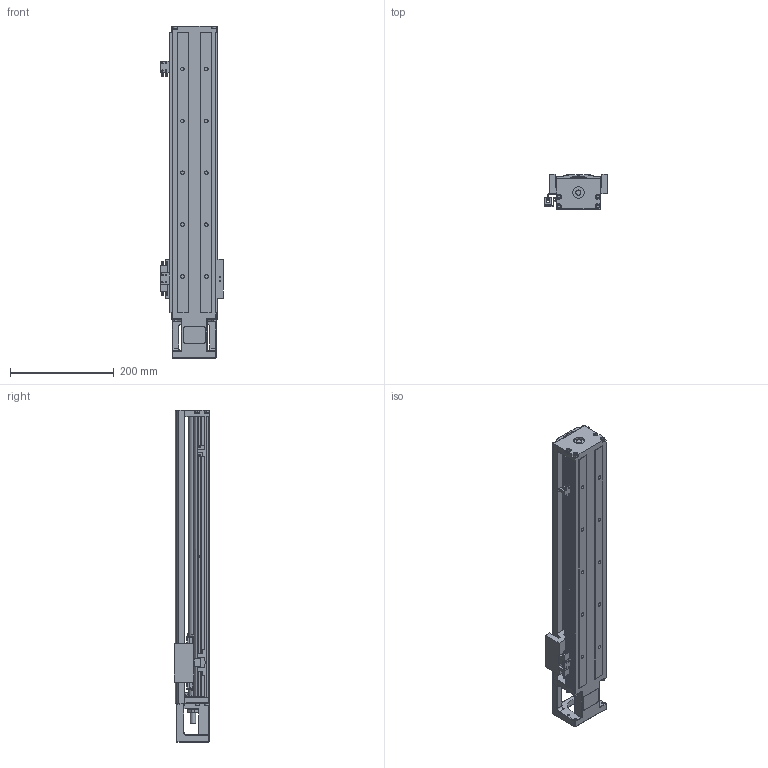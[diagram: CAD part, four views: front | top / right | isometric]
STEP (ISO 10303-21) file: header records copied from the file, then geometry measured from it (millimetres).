
FILE_DESCRIPTION (( 'STEP AP214' ), '1' );
FILE_NAME ('SFKK8610C-540A1-F0CS2.STEP', '2022-04-05T06:39:58', ( '微软用户' ), ( '微软中国' ), 'SwSTEP 2.0', 'SolidWorks 2018', '' );
FILE_SCHEMA (( 'AUTOMOTIVE_DESIGN' ));
Length unit declared in the file: millimetre
Products named in the file (11): 开关固定座：KK-674S2-F; 极限轨道与开关固定座组合_540; SFKK86-LR 憤癹寢耋_540; hexagon socket countersunk head screws gb_GB_FASTENER_SCREWS_HSCHS M3X8-N; SFKK86-A1-C; SFKK8610C-540A1-F0CS2; SFKK86-CU_540; 带盖挡光片：KK-86-S2-D1; SFKK86-F0_KKR86-ZT-P-540; hexagon socket countersunk head screws gb_GB_FASTENER_SCREWS_HSCHS M4X10-N; SX674嫖萇羲壽
Assembly tree (17 placements, depth 3):
  SFKK8610C-540A1-F0CS2
    SFKK86-F0_KKR86-ZT-P-540
    SFKK86-A1-C
    极限轨道与开关固定座组合_540
      SFKK86-LR 憤癹寢耋_540
      开关固定座：KK-674S2-F  x2
    SX674嫖萇羲壽  x3
    带盖挡光片：KK-86-S2-D1
    hexagon socket countersunk head screws gb_GB_FASTENER_SCREWS_HSCHS M3X8-N  x2
    SFKK86-CU_540
    hexagon socket countersunk head screws gb_GB_FASTENER_SCREWS_HSCHS M4X10-N  x4
Bounding box: 121.25 x 68 x 640 mm (x, y, z)
Volume: 1602203.8 mm3; surface area: 489947.8 mm2
Topology: 38 solids, 38 shells, 1904 faces, 4865 edges, 3024 vertices
Faces by surface type: plane 923, cylinder 665, cone 220, torus 67, sphere 23, bspline 6
Entity records: 55865 total; most frequent: CARTESIAN_POINT 12855, DIRECTION 8944, ORIENTED_EDGE 8460, EDGE_CURVE 4230, AXIS2_PLACEMENT_3D 3178, VERTEX_POINT 2698, LINE 2588, VECTOR 2588
